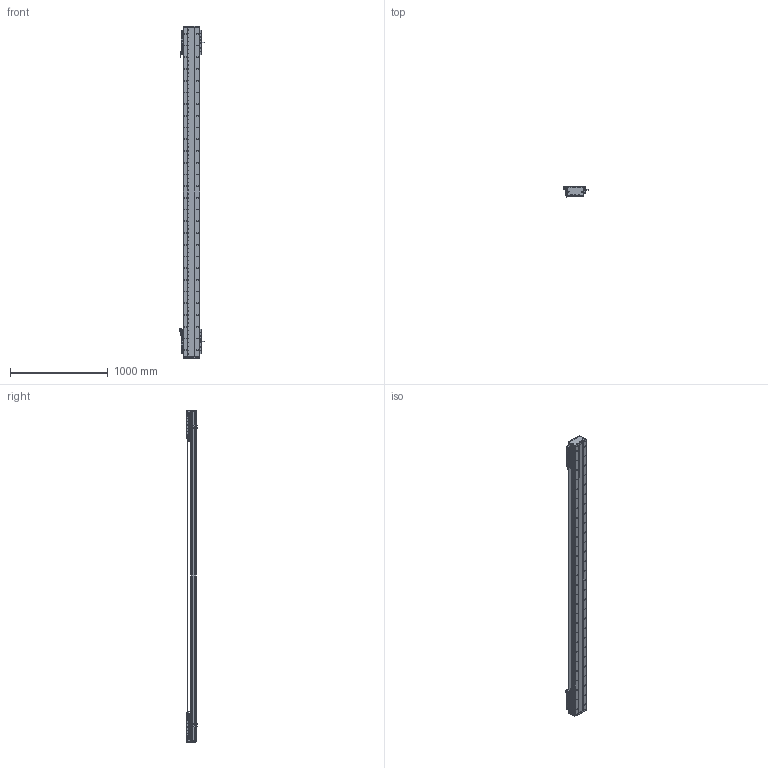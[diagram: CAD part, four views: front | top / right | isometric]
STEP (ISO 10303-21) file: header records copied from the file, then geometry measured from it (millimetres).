
FILE_DESCRIPTION (( 'STEP AP203' ), '1' );
FILE_NAME ('DA-C165-2-C3-T2780-C010-0.2 直线电机.STEP', '2023-06-13T09:14:08', ( '微软用户' ), ( '微软中国' ), 'SwSTEP 2.0', 'SolidWorks 2019', '' );
FILE_SCHEMA (( 'CONFIG_CONTROL_DESIGN' ));
Length unit declared in the file: millimetre
Products named in the file (22): 复件 DA165-GD-DG-H-00 端盖^复件 CU165钢带组件_DA-C165-C3-T-C010-0.2-N 直线电机; 复件 DA95-HXJ-00 缓冲橡胶^DA-C165-C3-T-C010-0.2-N 直线电机; 复件 六角薄螺母 M3^DA-C165-C3-T-C010-0.2-N 直线电机_GB_FASTENER_NUT_STNAB M3-C; 葩璃 CKM01-W075-TRL^DA-C165-C3-T-C010-0.2-N 眻盄萇儂; 复件 DA165-GDYK-00 钢带压块^复件 CU165钢带组件_DA-C165-C3-T-C010-0.2-N 直线电机; 复件 XD-U-02L 磁栅尺^DA-C165-C3-T-C010-0.2-N 直线电机_T; 复件 DA126-GYP-ZJ-00 中间光电感应片^DA-C165-C3-T-C010-0.2-N 直线电机; 复件 CU165钢带组件^DA-C165-C3-T-C010-0.2-N 直线电机; DA-C165-2-C3-T2780-C010-0.2 眻盄萇儂; 珨极趙賑雄怢啣C3-wf; 葩璃 DA95-GT-T-00^IU-CU165-L 菁釱絳寢_T; 复件 66338-1000-006-00 光电感应块^DA-C165-C3-T-C010-0.2-N 直线电机; 复件 DA165-GD-1860-002-00 钢带盖板^复件 CU165钢带组件_DA-C165-C3-T-C010-0.2-N 直线电机; 复件 DMA-010-0.2 读数头^DA-C165-C3-T-C010-0.2-N 直线电机; 复件 CU165 底座^IU-CU165-L 底座导轨_L3360; 复件 DA165-GDLK-00 钢带拉块^复件 CU165钢带组件_DA-C165-C3-T-C010-0.2-N 直线电机; 葩璃 PM-T45^DA-C165-C3-T-C010-0.2-N 眻盄萇儂; 复件 DA165-GYP-00 光电感应片^DA-C165-C3-T-C010-0.2-N 直线电机; 复件 DKW-HXJ-JY-00 缓冲橡胶^DA-C165-C3-T-C010-0.2-N 直线电机; IU-CU165-L 菁釱絳寢; 葩璃 PM-Y45^DA-C165-C3-T-C010-0.2-N 眻盄萇儂; 葩璃 CKM03-W075-C1C2-TP-3.0^DA-C165-C3-T-C010-0.2-N 眻盄萇儂
Assembly tree (45 placements, depth 3):
  DA-C165-2-C3-T2780-C010-0.2 眻盄萇儂
    IU-CU165-L 菁釱絳寢
      复件 CU165 底座^IU-CU165-L 底座导轨_L3360
      葩璃 DA95-GT-T-00^IU-CU165-L 菁釱絳寢_T  x4
    复件 XD-U-02L 磁栅尺^DA-C165-C3-T-C010-0.2-N 直线电机_T
    葩璃 PM-T45^DA-C165-C3-T-C010-0.2-N 眻盄萇儂  x4
    葩璃 CKM01-W075-TRL^DA-C165-C3-T-C010-0.2-N 眻盄萇儂
    复件 CU165钢带组件^DA-C165-C3-T-C010-0.2-N 直线电机
      复件 DA165-GD-DG-H-00 端盖^复件 CU165钢带组件_DA-C165-C3-T-C010-0.2-N 直线电机  x2
      复件 DA165-GDYK-00 钢带压块^复件 CU165钢带组件_DA-C165-C3-T-C010-0.2-N 直线电机  x2
      复件 DA165-GD-1860-002-00 钢带盖板^复件 CU165钢带组件_DA-C165-C3-T-C010-0.2-N 直线电机
      复件 DA165-GDLK-00 钢带拉块^复件 CU165钢带组件_DA-C165-C3-T-C010-0.2-N 直线电机  x2
    复件 DA95-HXJ-00 缓冲橡胶^DA-C165-C3-T-C010-0.2-N 直线电机  x4
    复件 DMA-010-0.2 读数头^DA-C165-C3-T-C010-0.2-N 直线电机  x2
    复件 DA165-GYP-00 光电感应片^DA-C165-C3-T-C010-0.2-N 直线电机  x2
    复件 66338-1000-006-00 光电感应块^DA-C165-C3-T-C010-0.2-N 直线电机
    葩璃 PM-Y45^DA-C165-C3-T-C010-0.2-N 眻盄萇儂
    复件 DA126-GYP-ZJ-00 中间光电感应片^DA-C165-C3-T-C010-0.2-N 直线电机
    葩璃 CKM03-W075-C1C2-TP-3.0^DA-C165-C3-T-C010-0.2-N 眻盄萇儂  x2
    复件 DKW-HXJ-JY-00 缓冲橡胶^DA-C165-C3-T-C010-0.2-N 直线电机  x2
    复件 六角薄螺母 M3^DA-C165-C3-T-C010-0.2-N 直线电机_GB_FASTENER_NUT_STNAB M3-C  x8
    珨极趙賑雄怢啣C3-wf  x2
Bounding box: 247.2 x 111.45 x 3400 mm (x, y, z)
Volume: 20967287.1 mm3; surface area: 6057972.9 mm2
Topology: 121 solids, 221 shells, 6941 faces, 19320 edges, 12090 vertices
Faces by surface type: cylinder 3830, plane 2043, cone 980, torus 80, sphere 8
Entity records: 167336 total; most frequent: CARTESIAN_POINT 46311, ORIENTED_EDGE 25224, DIRECTION 24270, EDGE_CURVE 12612, AXIS2_PLACEMENT_3D 9305, VERTEX_POINT 8244, EDGE_LOOP 5814, LINE 5660
